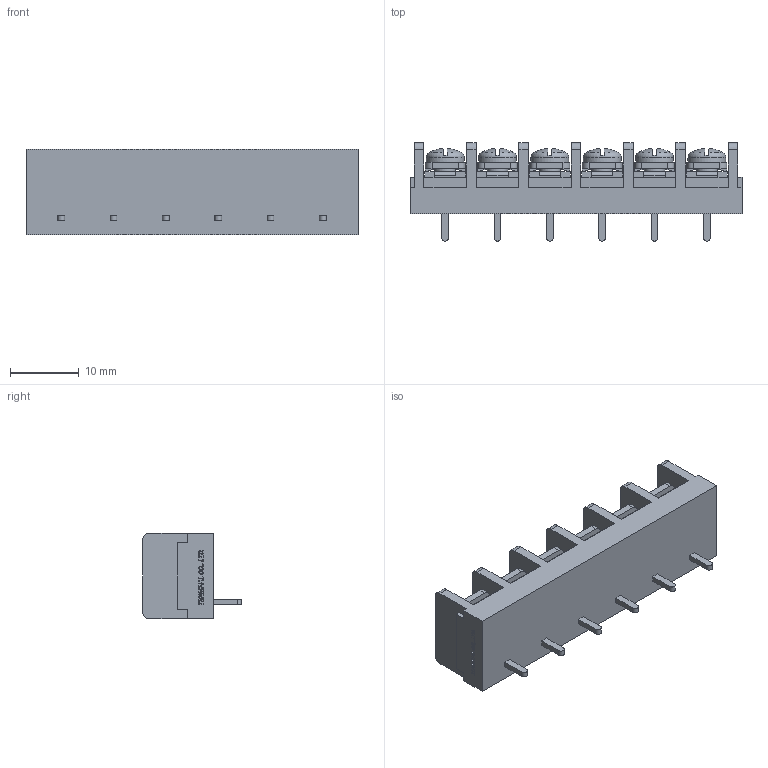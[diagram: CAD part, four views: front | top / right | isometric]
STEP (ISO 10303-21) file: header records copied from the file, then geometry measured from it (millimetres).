
FILE_DESCRIPTION(/* description */ ('Alibre Inc.'),/* implementation_level */ '2;1');
FILE_NAME(/* name */ 'export0',/* time_stamp */ '2015-10-26T17:23:51+09:00',/* author */ (''),/* organization */ (''),/* preprocessor_version */ 'ST-DEVELOPER v14',/* originating_system */ 'Alibre',/* authorisation */ '');
FILE_SCHEMA (('CONFIG_CONTROL_DESIGN'));
Length unit declared in the file: centimetre
Products named in the file (1): ID_1
Bounding box: 48.34 x 14.3 x 12.5 mm (x, y, z)
Volume: 4372.9 mm3; surface area: 4009.2 mm2
Topology: 1 solids, 1 shells, 974 faces, 2670 edges, 1762 vertices
Faces by surface type: plane 748, bspline 104, cylinder 74, cone 24, torus 12, sphere 12
Full cylindrical faces by diameter (mm): 3 x6, 5.5 x6
Entity records: 29435 total; most frequent: CARTESIAN_POINT 6689, ORIENTED_EDGE 5244, DIRECTION 3500, EDGE_CURVE 2622, VECTOR 1900, LINE 1900, VERTEX_POINT 1738, AXIS2_PLACEMENT_3D 1143
